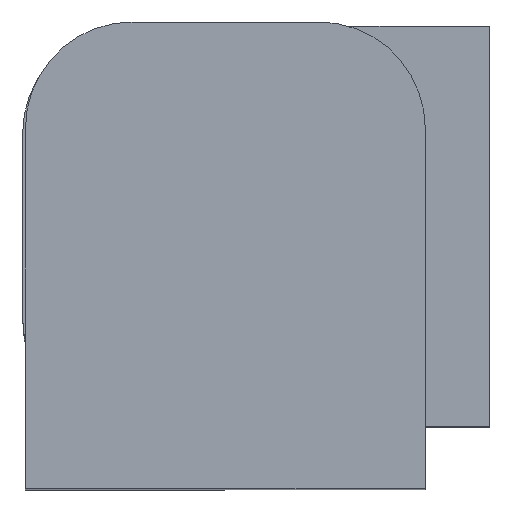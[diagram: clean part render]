
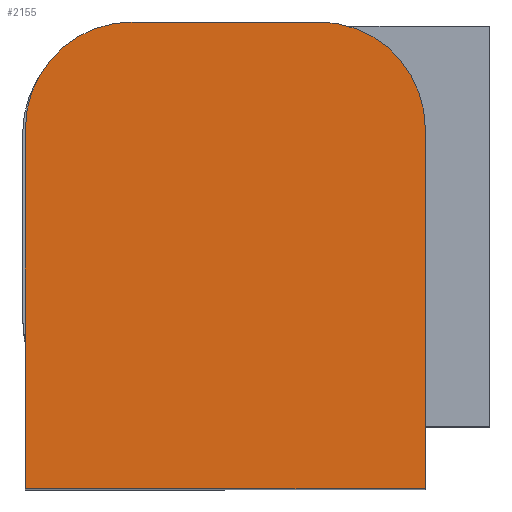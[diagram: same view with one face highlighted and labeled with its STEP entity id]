
A CAD part, top view. The second image highlights one B-rep face of the part: STEP entity #2155.
In plain terms, the highlighted planar face has unit normal (0, 0, 1).
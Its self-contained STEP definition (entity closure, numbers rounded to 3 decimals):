
#173 = CARTESIAN_POINT ( 'NONE',  ( 7.5, 7.6, 15.6 ) ) ;
#189 = DIRECTION ( 'NONE',  ( 1., 0., 0. ) ) ;
#212 = LINE ( 'NONE', #3093, #7586 ) ;
#276 = LINE ( 'NONE', #6446, #6386 ) ;
#287 = CARTESIAN_POINT ( 'NONE',  ( -7.5, -9.9, 15.6 ) ) ;
#615 = CIRCLE ( 'NONE', #4925, 4. ) ;
#659 = AXIS2_PLACEMENT_3D ( 'NONE', #8484, #4085, #9226 ) ;
#733 = EDGE_CURVE ( 'NONE', #9464, #6906, #212, .T. ) ;
#768 = EDGE_CURVE ( 'NONE', #8948, #820, #5634, .T. ) ;
#820 = VERTEX_POINT ( 'NONE', #8284 ) ;
#1054 = ORIENTED_EDGE ( 'NONE', *, *, #3859, .T. ) ;
#1762 = DIRECTION ( 'NONE',  ( 0., 0., 1. ) ) ;
#1813 = VERTEX_POINT ( 'NONE', #8069 ) ;
#1884 = CARTESIAN_POINT ( 'NONE',  ( -7.5, -9.9, 15.6 ) ) ;
#2036 = DIRECTION ( 'NONE',  ( 0., -1., 0. ) ) ;
#2155 = ADVANCED_FACE ( 'NONE', ( #8062 ), #8361, .T. ) ;
#2599 = CARTESIAN_POINT ( 'NONE',  ( -7.5, -9.9, 15.6 ) ) ;
#3093 = CARTESIAN_POINT ( 'NONE',  ( -7.5, 7.6, 15.6 ) ) ;
#3132 = DIRECTION ( 'NONE',  ( 0., 1., 0. ) ) ;
#3214 = ORIENTED_EDGE ( 'NONE', *, *, #733, .T. ) ;
#3719 = ORIENTED_EDGE ( 'NONE', *, *, #768, .T. ) ;
#3859 = EDGE_CURVE ( 'NONE', #3871, #8948, #8980, .T. ) ;
#3871 = VERTEX_POINT ( 'NONE', #2599 ) ;
#4085 = DIRECTION ( 'NONE',  ( 0., 0., 1. ) ) ;
#4317 = EDGE_LOOP ( 'NONE', ( #3214, #7527, #7454, #1054, #3719, #5341 ) ) ;
#4597 = DIRECTION ( 'NONE',  ( 0., 0., 1. ) ) ;
#4843 = AXIS2_PLACEMENT_3D ( 'NONE', #287, #1762, #6910 ) ;
#4925 = AXIS2_PLACEMENT_3D ( 'NONE', #9005, #4597, #189 ) ;
#5083 = VECTOR ( 'NONE', #7025, 1000. ) ;
#5341 = ORIENTED_EDGE ( 'NONE', *, *, #5754, .T. ) ;
#5634 = LINE ( 'NONE', #173, #7356 ) ;
#5754 = EDGE_CURVE ( 'NONE', #820, #9464, #7029, .T. ) ;
#6386 = VECTOR ( 'NONE', #2036, 1000. ) ;
#6446 = CARTESIAN_POINT ( 'NONE',  ( -7.5, 7.6, 15.6 ) ) ;
#6753 = DIRECTION ( 'NONE',  ( -1., 0., 0. ) ) ;
#6906 = VERTEX_POINT ( 'NONE', #9143 ) ;
#6910 = DIRECTION ( 'NONE',  ( 1., 0., 0. ) ) ;
#7025 = DIRECTION ( 'NONE',  ( 1., 0., 0. ) ) ;
#7029 = CIRCLE ( 'NONE', #659, 4. ) ;
#7356 = VECTOR ( 'NONE', #3132, 1000. ) ;
#7454 = ORIENTED_EDGE ( 'NONE', *, *, #8636, .T. ) ;
#7527 = ORIENTED_EDGE ( 'NONE', *, *, #8933, .T. ) ;
#7586 = VECTOR ( 'NONE', #6753, 1000. ) ;
#8062 = FACE_OUTER_BOUND ( 'NONE', #4317, .T. ) ;
#8069 = CARTESIAN_POINT ( 'NONE',  ( -7.5, 3.6, 15.6 ) ) ;
#8224 = CARTESIAN_POINT ( 'NONE',  ( 3.5, 7.6, 15.6 ) ) ;
#8284 = CARTESIAN_POINT ( 'NONE',  ( 7.5, 3.6, 15.6 ) ) ;
#8361 = PLANE ( 'NONE',  #4843 ) ;
#8484 = CARTESIAN_POINT ( 'NONE',  ( 3.5, 3.6, 15.6 ) ) ;
#8636 = EDGE_CURVE ( 'NONE', #1813, #3871, #276, .T. ) ;
#8933 = EDGE_CURVE ( 'NONE', #6906, #1813, #615, .T. ) ;
#8948 = VERTEX_POINT ( 'NONE', #9032 ) ;
#8980 = LINE ( 'NONE', #1884, #5083 ) ;
#9005 = CARTESIAN_POINT ( 'NONE',  ( -3.5, 3.6, 15.6 ) ) ;
#9032 = CARTESIAN_POINT ( 'NONE',  ( 7.5, -9.9, 15.6 ) ) ;
#9143 = CARTESIAN_POINT ( 'NONE',  ( -3.5, 7.6, 15.6 ) ) ;
#9226 = DIRECTION ( 'NONE',  ( 1., 0., 0. ) ) ;
#9464 = VERTEX_POINT ( 'NONE', #8224 ) ;
